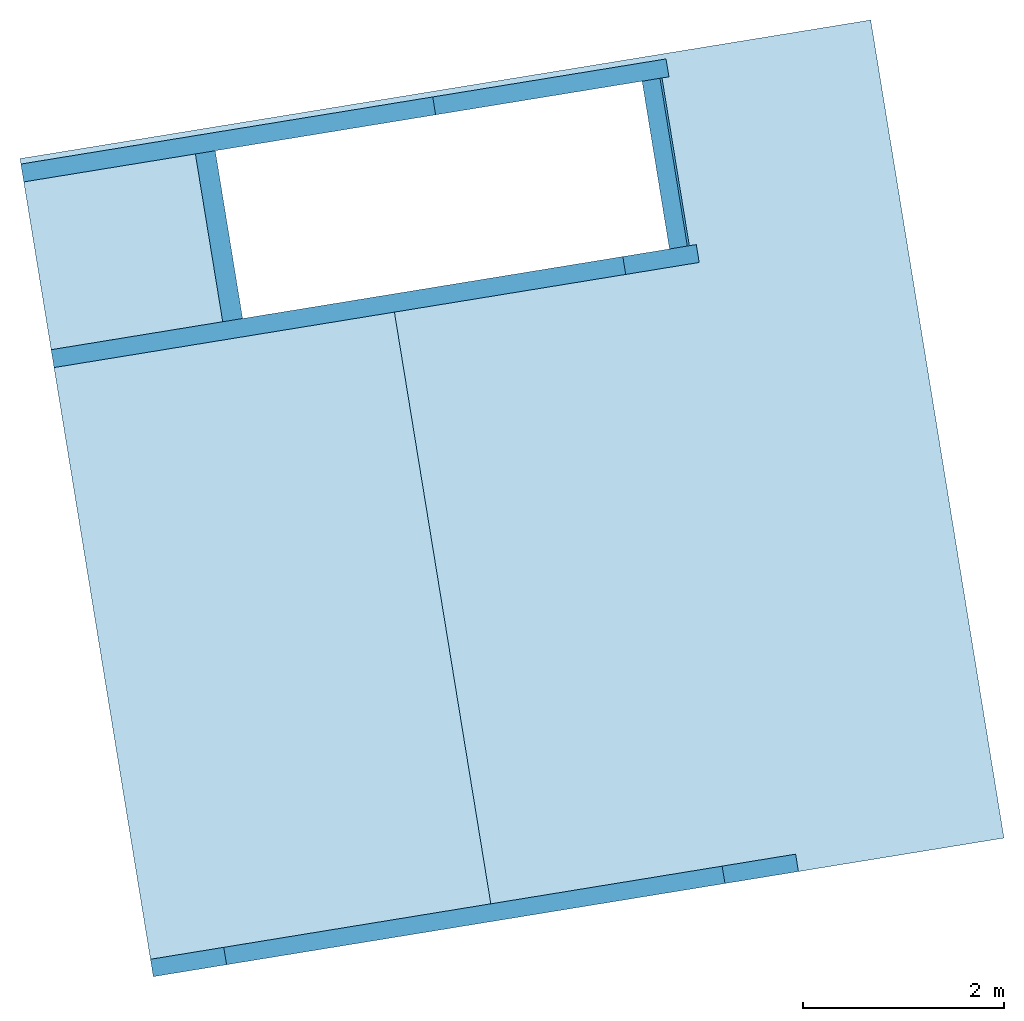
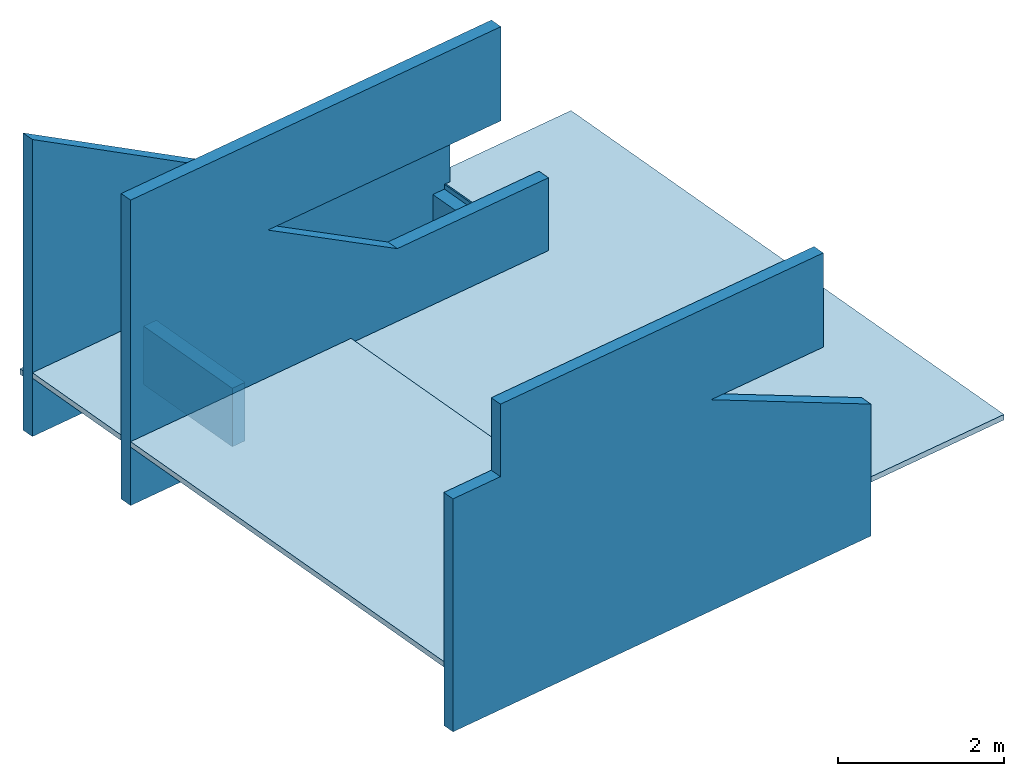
# One storey: 6 slabs, 2 walls.
"""IFC2X3 building model written with IfcOpenShell, lengths in millimetres."""

import ifcopenshell
import ifcopenshell.guid

model = None  # the IFC model being written
_history = None  # IfcOwnerHistory: only IFC2X3 demands one
_inside = {}  # id of a spatial element -> (the spatial element, [elements in it])
_under = {}  # id of a project, library or spatial element -> (it, [spatial elements below it])
_declared = {}  # id of a project -> (the project, [libraries it declares])
_typed = {}  # id of a type object -> (the type object, [elements of that type])
_made_of = {}  # id of a material, layer set ... -> (it, [elements and type objects made of it])


def new_model(schema):
    """Start an empty IFC model of exactly this schema.

    Asked for "IFC4X3", IfcOpenShell would pick the latest addendum, in which some entities
    have other attributes; the version numbers below select the first issue.
    IFC2X3 requires an IfcOwnerHistory on every rooted entity: one is made here for all.
    """
    global model, _history
    if schema == "IFC4X3":
        model = ifcopenshell.file(schema_version=(4, 3, 0, 0))
    else:
        model = ifcopenshell.file(schema=schema)
    _inside.clear()
    _under.clear()
    _declared.clear()
    _typed.clear()
    _made_of.clear()
    _history = None
    if model.schema == "IFC2X3":
        org = make("IfcOrganization", Name="unknown")
        user = make(
            "IfcPersonAndOrganization",
            ThePerson=make("IfcPerson", FamilyName="unknown"),
            TheOrganization=org,
        )
        app = make(
            "IfcApplication",
            ApplicationDeveloper=org,
            Version="unknown",
            ApplicationFullName="unknown",
            ApplicationIdentifier="unknown",
        )
        _history = make(
            "IfcOwnerHistory",
            OwningUser=user,
            OwningApplication=app,
            ChangeAction="ADDED",
            CreationDate=0,
        )
    return model


def make(cls, **values):
    """One entity of the class cls with the attributes given. An attribute that is None is left unset."""
    return model.create_entity(
        cls, **{name: value for name, value in values.items() if value is not None}
    )


def entity(cls, *values):
    """Any entity or typed value of the class cls, its attributes in the order of the schema. None: left unset."""
    e = model.create_entity(cls)
    for i, value in enumerate(values):
        if value is not None:
            e[i] = value
    return e


def rooted(cls, **values):
    """An entity with a GlobalId (a new one), such as an element, a storey or a relation."""
    return make(cls, GlobalId=ifcopenshell.guid.new(), OwnerHistory=_history, **values)


def si_unit(unit_type, name, prefix=None):
    """IfcSIUnit, for example si_unit("LENGTHUNIT", "METRE", prefix="MILLI")."""
    return make("IfcSIUnit", UnitType=unit_type, Prefix=prefix, Name=name)


def converted_unit(unit_type, name, factor, base, dimensions=None, offset=None):
    """IfcConversionBasedUnit, such as the inch: factor (a typed value) times the base unit."""
    return make(
        "IfcConversionBasedUnit"
        if offset is None
        else "IfcConversionBasedUnitWithOffset",
        ConversionOffset=offset,
        Dimensions=None
        if dimensions is None
        else entity("IfcDimensionalExponents", *dimensions),
        UnitType=unit_type,
        Name=name,
        ConversionFactor=make(
            "IfcMeasureWithUnit", ValueComponent=factor, UnitComponent=base
        ),
    )


def derived_unit(unit_type, elements):
    """IfcDerivedUnit: a product of units, each with its exponent."""
    return make(
        "IfcDerivedUnit",
        Elements=[
            make("IfcDerivedUnitElement", Unit=unit, Exponent=power)
            for unit, power in elements
        ],
        UnitType=unit_type,
    )


def assignment(units):
    """IfcUnitAssignment: the units of a project."""
    return None if units is None else make("IfcUnitAssignment", Units=units)


def point(xyz):
    """IfcCartesianPoint."""
    return None if xyz is None else make("IfcCartesianPoint", Coordinates=xyz)


def direction(xyz):
    """IfcDirection."""
    return None if xyz is None else make("IfcDirection", DirectionRatios=xyz)


def frame(location, z_axis=None, x_axis=None):
    """IfcAxis2Placement3D, a coordinate frame: its origin and axes. An axis left out is left unset."""
    return make(
        "IfcAxis2Placement3D",
        Location=point(location),
        Axis=direction(z_axis),
        RefDirection=direction(x_axis),
    )


def origin():
    """The frame at (0, 0, 0) with its axes left unset."""
    return frame((0.0, 0.0, 0.0))


def origin_with_axes():
    """The frame at (0, 0, 0) with the z axis (0, 0, 1) and the x axis (1, 0, 0) written out."""
    return frame((0.0, 0.0, 0.0), z_axis=(0.0, 0.0, 1.0), x_axis=(1.0, 0.0, 0.0))


def place(relative_to, where):
    """IfcLocalPlacement: puts the frame where relative to a parent placement (None: the world)."""
    return make(
        "IfcLocalPlacement", PlacementRelTo=relative_to, RelativePlacement=where
    )


def context(
    kind, dimensions, precision=None, world=None, true_north=None, identifier=None
):
    """IfcGeometricRepresentationContext, for example the 3D "Model" context."""
    return make(
        "IfcGeometricRepresentationContext",
        ContextIdentifier=identifier,
        ContextType=kind,
        CoordinateSpaceDimension=dimensions,
        Precision=precision,
        WorldCoordinateSystem=world,
        TrueNorth=true_north,
    )


def subcontext(parent, identifier, kind, view, scale=None):
    """IfcGeometricRepresentationSubContext, for example "Body" below "Model"."""
    return make(
        "IfcGeometricRepresentationSubContext",
        ContextIdentifier=identifier,
        ContextType=kind,
        ParentContext=parent,
        TargetScale=scale,
        TargetView=view,
    )


def project(units=None, contexts=None):
    """IfcProject with its units and contexts."""
    return rooted(
        "IfcProject",
        Name="project",
        RepresentationContexts=contexts,
        UnitsInContext=assignment(units),
    )


def spatial(cls, under=None, at=None, **own):
    """A site, building, storey or space (cls), placed at a placement, below another one or the project."""
    s = rooted(cls, ObjectPlacement=at, **own)
    if under is not None:
        _under.setdefault(under.id(), (under, []))[1].append(s)
    return s


def faces_of(points, faces, orient=None, outer=None):
    """IfcFace entities. A face is a list of loops; a loop is a list of indices into points, from 0.

    orient and outer hold one flag for each loop. By default every Orientation is true, the
    first loop of a face is its IfcFaceOuterBound and the others are IfcFaceBound.
    """
    made = []
    for i, loops in enumerate(faces):
        bounds = []
        for j, loop in enumerate(loops):
            is_outer = j == 0 if outer is None else outer[i][j]
            bounds.append(
                make(
                    "IfcFaceOuterBound" if is_outer else "IfcFaceBound",
                    Bound=make("IfcPolyLoop", Polygon=[points[k] for k in loop]),
                    Orientation=True if orient is None else orient[i][j],
                )
            )
        made.append(make("IfcFace", Bounds=bounds))
    return made


def faceted_brep(points, faces, orient=None, outer=None, voids=None):
    """IfcFacetedBrep: a solid bounded by flat faces; with voids (closed shells), ...WithVoids."""
    shared = [point(p) for p in points]
    hull = make("IfcClosedShell", CfsFaces=faces_of(shared, faces, orient, outer))
    if voids is None:
        return make("IfcFacetedBrep", Outer=hull)
    return make(
        "IfcFacetedBrepWithVoids",
        Outer=hull,
        Voids=[
            make(cls, CfsFaces=faces_of(shared, fs, o, b)) for cls, fs, o, b in voids
        ],
    )


def shape(context_of_items, identifier, shape_type, items):
    """IfcShapeRepresentation: the items that make up one representation, for example the "Body"."""
    return make(
        "IfcShapeRepresentation",
        ContextOfItems=context_of_items,
        RepresentationIdentifier=identifier,
        RepresentationType=shape_type,
        Items=items,
    )


def material(Name=None, Category=None):
    """IfcMaterial."""
    return make("IfcMaterial", Name=Name, Category=Category)


def made_of(thing, what):
    """Note that an element or type object is made of a material, layer set ...; save() writes the relation."""
    if what is not None:
        _made_of.setdefault(what.id(), (what, []))[1].append(thing)
    return thing


def type_object(cls, material=None, **own):
    """A type object (cls), such as IfcWallType, which elements share."""
    return made_of(rooted(cls, **own), material)


def element(
    cls,
    number,
    at=None,
    inside=None,
    cuts=None,
    type_object=None,
    material=None,
    context=None,
    identifier="Body",
    shape_type=None,
    held_by="IfcProductDefinitionShape",
    body=None,
    shapes=None,
    **own,
):
    """One element of the class cls, such as IfcWall. Its Tag is "e" and its number.

    at: its placement. inside: the storey or other place that contains it. cuts: it is an
    opening in that element (IfcRelVoidsElement). A single representation is given by context,
    identifier, shape_type and body (its items); several are given by shapes. held_by: the class
    of the entity that holds the representations. save() writes the other relations.
    """
    e = rooted(cls, Tag="e%d" % number, ObjectPlacement=at, **own)
    if body is not None:
        shapes = [shape(context, identifier, shape_type, body)]
    if shapes is not None:
        e.Representation = make(held_by, Representations=shapes)
    if inside is not None:
        _inside.setdefault(inside.id(), (inside, []))[1].append(e)
    if cuts is not None:
        rooted(
            "IfcRelVoidsElement", RelatingBuildingElement=cuts, RelatedOpeningElement=e
        )
    if type_object is not None:
        _typed.setdefault(type_object.id(), (type_object, []))[1].append(e)
    return made_of(e, material)


def aggregate(whole, parts):
    """IfcRelAggregates: a whole, such as a stair, and the parts it consists of."""
    return rooted("IfcRelAggregates", RelatingObject=whole, RelatedObjects=parts)


def save(model, path):
    """Write the relations noted so far, then the file.

    IfcRelAggregates (storeys below a building ...), IfcRelContainedInSpatialStructure (elements
    in a storey), IfcRelDefinesByType, IfcRelAssociatesMaterial and IfcRelDeclares: one each for
    every whole, place, type object, material and project.
    """
    for whole, parts in _under.values():
        aggregate(whole, parts)
    for where, things in _inside.values():
        rooted(
            "IfcRelContainedInSpatialStructure",
            RelatedElements=things,
            RelatingStructure=where,
        )
    for kind, things in _typed.values():
        rooted("IfcRelDefinesByType", RelatedObjects=things, RelatingType=kind)
    for what, things in _made_of.values():
        rooted("IfcRelAssociatesMaterial", RelatedObjects=things, RelatingMaterial=what)
    for by, libraries in _declared.values():
        rooted("IfcRelDeclares", RelatingContext=by, RelatedDefinitions=libraries)
    model.write(path)


model = new_model("IFC2X3")

# Units and contexts
plan_context = context("Plan", 3, precision=1e-05, world=origin_with_axes())
model_context = context("Model", 3, precision=0.01, world=origin(), true_north=direction((6.12323399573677e-17, 1.0)))
body_context = subcontext(model_context, "Body", "Model", "MODEL_VIEW")
ifc_project = project(units=[converted_unit("PLANEANGLEUNIT", "DEGREE", entity("IfcPositiveLengthMeasure", 0.0174532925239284), si_unit("PLANEANGLEUNIT", "RADIAN"), dimensions=[0, 0, 0, 0, 0, 0, 0]), si_unit("AREAUNIT", "SQUARE_METRE"), si_unit("LENGTHUNIT", "METRE", prefix="MILLI"), si_unit("MASSUNIT", "GRAM", prefix="KILO"), si_unit("POWERUNIT", "WATT"), si_unit("PRESSUREUNIT", "PASCAL", prefix="KILO"), si_unit("FORCEUNIT", "NEWTON", prefix="KILO"), si_unit("ELECTRICVOLTAGEUNIT", "VOLT"), si_unit("ELECTRICCURRENTUNIT", "AMPERE"), si_unit("THERMODYNAMICTEMPERATUREUNIT", "DEGREE_CELSIUS"), si_unit("TIMEUNIT", "SECOND"), si_unit("VOLUMEUNIT", "CUBIC_METRE"), derived_unit("LINEARVELOCITYUNIT", [(si_unit("LENGTHUNIT", "METRE"), 1), (si_unit("TIMEUNIT", "SECOND"), -1)]), derived_unit("VOLUMETRICFLOWRATEUNIT", [(si_unit("VOLUMEUNIT", "CUBIC_METRE"), 1), (si_unit("TIMEUNIT", "SECOND"), -1)]), derived_unit("THERMALTRANSMITTANCEUNIT", [(si_unit("POWERUNIT", "WATT"), 1), (si_unit("THERMODYNAMICTEMPERATUREUNIT", "KELVIN"), -1), (si_unit("AREAUNIT", "SQUARE_METRE"), -1)]), derived_unit("SOUNDPRESSUREUNIT", [(si_unit("PRESSUREUNIT", "PASCAL"), 1)])], contexts=[model_context, plan_context])

# Site, building, storey
site_placement = place(None, frame((5.09380697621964e-08, 5.80416781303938e-08, 0.0), z_axis=(0.0, 0.0, 1.0), x_axis=(-0.160806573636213, 0.986985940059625, 0.0)))
site = spatial("IfcSite", under=ifc_project, at=site_placement, Name="Default", CompositionType="ELEMENT")
building_placement = place(site_placement, frame((0.0, 0.0, 0.0), z_axis=(0.0, 0.0, 1.0), x_axis=(1.0, -2.77555756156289e-17, 0.0)))
building = spatial("IfcBuilding", under=site, at=building_placement, CompositionType="ELEMENT")
storey_placement = place(building_placement, frame((0.0, 0.0, 47800.0), z_axis=(0.0, 0.0, 1.0), x_axis=(1.0, -2.77555756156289e-17, 0.0)))
storey = spatial("IfcBuildingStorey", under=building, at=storey_placement, Name="U01-Nivå B+3,1m", CompositionType="ELEMENT", Elevation=47800.0)

# Slabs
slab_type_1 = type_object("IfcSlabType", Name="180*6550", PredefinedType="FLOOR")
slab_1_placement = place(storey_placement, frame((0.0, 0.0, 0.0), z_axis=(0.0, 0.0, 1.0), x_axis=(1.0, -2.77555756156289e-17, 0.0)))
element("IfcSlab", 1, at=slab_1_placement, inside=storey, type_object=slab_type_1, Name="PLASSTØPTVEGG", ObjectType="180*6550", PredefinedType="FLOOR", context=body_context, shape_type="Brep", body=[
    faceted_brep([(980308.477619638, -372700.382838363, 2560.00000007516), (980128.477619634, -372700.38376501, 2560.00000007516), (980128.477619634, -372700.383765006, 4500.00000000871), (980308.477619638, -372700.38283836, 4500.00000000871), (980128.444166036, -366202.062917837, 6928.28537395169), (980308.444166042, -366202.062526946, 6928.28506033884), (980308.46552175, -370350.382838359, 4500.00000000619), (980128.465521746, -370350.383765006, 4500.00000000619), (980128.477619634, -366202.062917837, 2560.00000007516), (980308.477619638, -366202.062917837, 2560.00000007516), (980308.444166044, -366202.062917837, 2560.00000007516), (980308.444166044, -366202.062917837, 6928.28483152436), (980128.444166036, -366202.062917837, 2560.00000007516)], [[[0, 1, 2, 3]], [[4, 5, 6, 7]], [[7, 6, 3, 2]], [[1, 8, 4, 7, 2]], [[5, 9, 0, 3, 6]], [[10, 11, 4, 12]], [[12, 1, 0, 10]]], orient=[[False], [False], [False], [False], [False], [False], [False]]),
])
slab_type_2 = type_object("IfcSlabType", Name="180*8650", PredefinedType="FLOOR")
slab_2_placement = place(storey_placement, frame((0.0, 0.0, 0.0), z_axis=(0.0, 0.0, 1.0), x_axis=(1.0, -2.77555756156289e-17, 0.0)))
element("IfcSlab", 2, at=slab_2_placement, inside=storey, type_object=slab_type_2, Name="PLASSTØPTVEGG", ObjectType="180*8650", PredefinedType="FLOOR", context=body_context, shape_type="Brep", body=[
    faceted_brep([(972298.477619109, -372700.418235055, 2560.00000007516), (972123.367643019, -372700.419161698, 2560.00000007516), (972123.36764302, -372700.419136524, 4500.00000000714), (972298.477619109, -372700.418235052, 4500.00000000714), (972123.367643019, -366940.419136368, 5985.00000000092), (972123.367643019, -366202.062917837, 5984.99999999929), (972298.444165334, -366202.062917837, 5985.00000000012), (972298.447966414, -366940.418235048, 5985.00000000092), (972123.367643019, -366940.419136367, 7050.00000000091), (972298.447966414, -366940.418235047, 7050.00000000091), (972123.367643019, -371960.419136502, 7050.00000000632), (972298.473809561, -371960.418235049, 7050.00000000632), (972123.367643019, -371960.419136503, 5665.00000000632), (972298.473809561, -371960.41823505, 5665.00000000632), (972123.367643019, -370215.419136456, 5665.00000000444), (972298.464826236, -370215.418235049, 5665.00000000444), (972298.477619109, -366202.062917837, 2560.00000007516), (972298.444165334, -366202.062917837, 2560.00000007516), (972123.367643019, -366202.062917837, 2560.00000007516), (972123.367643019, -372700.419136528, 2560.00000007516)], [[[0, 1, 2, 3]], [[4, 5, 6, 7]], [[8, 4, 7, 9]], [[10, 8, 9, 11]], [[12, 10, 11, 13]], [[14, 12, 13, 15]], [[2, 14, 15, 3]], [[6, 16, 0, 3, 15, 13, 11, 9, 7]], [[17, 6, 5, 18]], [[5, 4, 8, 10, 12, 14, 2, 19, 18]], [[19, 0, 17, 18]]], orient=[[False], [False], [False], [False], [False], [False], [False], [False], [False], [False], [False]]),
])
slab_3_placement = place(storey_placement, frame((0.0, 0.0, 0.0), z_axis=(0.0, 0.0, 1.0), x_axis=(1.0, -2.77555756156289e-17, 0.0)))
element("IfcSlab", 3, at=slab_3_placement, inside=storey, type_object=slab_type_2, Name="PLASSTØPTVEGG", ObjectType="180*8650", PredefinedType="FLOOR", context=body_context, shape_type="Brep", body=[
    faceted_brep([(978438.477619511, -372700.391102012, 2560.00000007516), (978258.477619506, -372700.392028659, 2560.00000007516), (978258.477619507, -372700.392028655, 4500.00000000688), (978438.477619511, -372700.391102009, 4500.00000000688), (978258.444165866, -366202.062917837, 7049.99999999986), (978438.444165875, -366202.062876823, 7049.99999999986), (978438.473809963, -371960.391102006, 7050.00000000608), (978258.473809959, -371960.392028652, 7050.00000000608), (978438.473809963, -371960.391102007, 5665.00000000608), (978258.473809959, -371960.392028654, 5665.00000000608), (978438.455148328, -368335.391102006, 5665.00000000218), (978258.455148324, -368335.392028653, 5665.00000000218), (978438.465521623, -370350.391102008, 4500.00000000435), (978258.465521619, -370350.392028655, 4500.00000000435), (978258.477619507, -366202.062917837, 2560.00000007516), (978438.477619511, -366202.062917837, 2560.00000007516), (978438.444165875, -366202.062917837, 2560.00000007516), (978438.444165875, -366202.062917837, 7049.99999999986), (978258.444165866, -366202.062917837, 2560.00000007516)], [[[0, 1, 2, 3]], [[4, 5, 6, 7]], [[7, 6, 8, 9]], [[9, 8, 10, 11]], [[11, 10, 12, 13]], [[13, 12, 3, 2]], [[1, 14, 4, 7, 9, 11, 13, 2]], [[5, 15, 0, 3, 12, 10, 8, 6]], [[16, 17, 4, 18]], [[18, 1, 0, 16]]], orient=[[False], [False], [False], [False], [False], [False], [False], [False], [False], [False]]),
])
slab_type_3 = type_object("IfcSlabType", Name="80*1690", PredefinedType="FLOOR")
slab_4_placement = place(storey_placement, frame((0.0, 0.0, 0.0), z_axis=(0.0, 0.0, 1.0), x_axis=(1.0, -2.77555756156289e-17, 0.0)))
element("IfcSlab", 4, at=slab_4_placement, inside=storey, type_object=slab_type_3, Name="GULVPÅGRUNN", ObjectType="80*1690", PredefinedType="FLOOR", context=body_context, shape_type="Brep", body=[
    faceted_brep([(980128.449683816, -366202.062909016, 3500.00033079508), (980128.449683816, -366202.062917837, 3420.00033079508), (980128.459610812, -368130.382479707, 3420.00092600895), (980128.459610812, -368130.382455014, 3500.00092600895), (978438.44968373, -366202.062917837, 3420.00033079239), (978438.44968373, -366202.062909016, 3500.0003307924), (978438.459610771, -368130.39115514, 3500.00092600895), (978438.459610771, -368130.391179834, 3420.00092600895), (978438.44968373, -366202.062917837, 3500.0003307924), (980128.449683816, -366202.062917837, 3500.00033079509)], [[[0, 1, 2, 3]], [[4, 5, 6, 7]], [[7, 6, 3, 2]], [[1, 4, 7, 2]], [[5, 0, 3, 6]], [[8, 4, 1, 9]]], orient=[[False], [False], [False], [False], [False], [False]]),
])
slab_type_4 = type_object("IfcSlabType", Name="80*12000", PredefinedType="FLOOR")
slab_5_placement = place(storey_placement, frame((968638.319247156, -385580.432667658, 3350.0), z_axis=(0.0, 0.0, 1.0), x_axis=(1.0, -2.77555756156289e-17, 0.0)))
element("IfcSlab", 5, at=slab_5_placement, inside=storey, type_object=slab_type_4, Name="GULVPÅGRUNN", ObjectType="80*12000", PredefinedType="FLOOR", context=body_context, shape_type="Brep", body=[
    faceted_brep([(3485.04839586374, 12880.0148964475, 80.0036779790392), (3485.04839586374, 12880.0148717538, 0.00367797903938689), (3660.15632598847, 12880.0156190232, 0.00367768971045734), (3660.15632612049, 12880.0156437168, 80.0036776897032), (3660.14322472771, 15950.0156190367, 0.00273007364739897), (3660.14322485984, 15950.0156437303, 80.0027300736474), (9620.1434690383, 15950.0410532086, 0.00272022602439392), (9620.1434691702, 15950.0410779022, 80.0027202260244), (9620.15657029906, 12880.0410531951, 0.00366784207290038), (9620.15657043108, 12880.0410778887, 80.0036678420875), (9800.15657030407, 12880.0418213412, 0.00366754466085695), (9800.15657043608, 12880.0418460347, 80.0036675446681), (9800.15627157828, 12950.0418213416, 0.00364593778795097), (9800.15627171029, 12950.0418460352, 80.003645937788), (11490.1562716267, 12950.0490333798, 0.00364314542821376), (11490.1562717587, 12950.0490580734, 80.0036431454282), (11490.1565703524, 12880.0490333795, 0.00366475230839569), (11490.1565704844, 12880.0490580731, 80.0036647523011), (11588.6711852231, 19378.3697498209, 0.00165875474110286), (11588.6711851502, 19378.3697609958, 80.001658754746), (3485.04839586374, 10809.3697498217, 0.00730908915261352), (11725.0483958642, 10809.3697498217, 0.0073090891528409), (11725.0483958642, 19378.3697498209, 0.00730908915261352), (11725.0483958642, 19378.3697498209, 80.0073100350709), (11725.0483958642, 10809.3697498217, 80.007310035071), (3485.04839586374, 10809.3697498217, 80.0073100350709), (11725.0483958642, 10809.3697498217, 80.0076400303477), (11725.0483958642, 19378.3697498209, 80.0076400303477), (11725.0483958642, 19378.3697498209, 4.54466544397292e-07), (11725.0483958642, 10809.3697498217, 4.54466658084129e-07), (11588.6711849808, 19378.3697498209, 80.0016587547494), (3485.04839586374, 10809.3697498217, 0.00367797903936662), (3485.04839586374, 10809.3697498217, 80.0036779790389)], [[[0, 1, 2, 3]], [[4, 5, 3, 2]], [[6, 7, 5, 4]], [[8, 9, 7, 6]], [[10, 11, 9, 8]], [[12, 13, 11, 10]], [[14, 15, 13, 12]], [[16, 17, 15, 14]], [[18, 19, 17, 16]], [[1, 20, 21, 22, 18, 16, 14, 12, 10, 8, 6, 4, 2]], [[19, 23, 24, 25, 0, 3, 5, 7, 9, 11, 13, 15, 17]], [[26, 27, 28, 29]], [[27, 30, 18, 28]], [[31, 1, 0, 32]], [[32, 26, 29, 31]]], orient=[[False], [False], [False], [False], [False], [False], [False], [False], [False], [False], [False], [False], [False], [False], [False]]),
])
slab_type_5 = type_object("IfcSlabType", Name="80*4500", PredefinedType="FLOOR")
slab_6_placement = place(storey_placement, frame((0.0, 0.0, 0.0), z_axis=(0.0, 0.0, 1.0), x_axis=(1.0, -2.77555756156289e-17, 0.0)))
element("IfcSlab", 6, at=slab_6_placement, inside=storey, type_object=slab_type_5, Name="GULVPÅGRUNN", ObjectType="80*4500", PredefinedType="FLOOR", context=body_context, shape_type="Brep", body=[
    faceted_brep([(972298.45362018, -366202.062917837, 3420.00000492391), (972298.45362018, -366202.062917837, 3500.00000492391), (972298.45362018, -369630.405133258, 3500.00000492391), (972298.45362018, -369630.405133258, 3420.00000492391), (978258.454108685, -369630.405133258, 3500.00000492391), (978258.454108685, -369630.405133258, 3420.00000492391), (978258.454108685, -366202.062917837, 3500.00000492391), (978258.454108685, -366202.062917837, 3420.00000492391)], [[[0, 1, 2, 3]], [[3, 2, 4, 5]], [[6, 7, 5, 4]], [[7, 0, 3, 5]], [[1, 6, 4, 2]], [[7, 6, 1, 0]]], orient=[[False], [False], [False], [False], [False], [False]]),
])

# Walls
ifc_material = material(Name="CONCRETE/B35")
wall_type_1 = type_object("IfcWallType", Name="1280*200", PredefinedType="NOTDEFINED", material=ifc_material)
wall_1_placement = place(storey_placement, frame((978438.476605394, -372630.391168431, 2150.0), z_axis=(0.0, 0.0, 1.0), x_axis=(1.0, -2.77555756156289e-17, 0.0)))
element("IfcWall", 7, at=wall_1_placement, inside=storey, type_object=wall_type_1, Name="PLASSTØPTVEGG", ObjectType="1280*200", context=body_context, shape_type="Brep", body=[
    faceted_brep([(1690.00061654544, 20.0074159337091, 1210.0), (0.000795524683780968, 19.9999469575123, 1210.0), (0.0, 200.0, 1210.0), (1689.99982102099, 200.007469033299, 1210.0), (1690.00061654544, 20.0074159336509, 1280.0), (0.000795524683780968, 19.9999469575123, 1280.0), (1690.000704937, 0.00746903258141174, 410.000000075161), (0.000883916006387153, 0.0, 410.000000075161), (0.000883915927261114, 0.0, 1280.0), (1690.00070493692, 0.00746903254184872, 1280.0), (0.0, 200.0, 410.000000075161), (1689.99982102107, 200.007469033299, 410.000000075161)], [[[0, 1, 2, 3]], [[0, 4, 5, 1]], [[6, 7, 8, 9]], [[7, 10, 2, 1, 5, 8]], [[10, 11, 3, 2]], [[11, 6, 9, 4, 0, 3]], [[4, 9, 8, 5]], [[11, 10, 7, 6]]], orient=[[False], [False], [False], [False], [False], [False], [False], [False]]),
])
wall_type_2 = type_object("IfcWallType", Name="1270*200", PredefinedType="NOTDEFINED", material=ifc_material)
wall_2_placement = place(storey_placement, frame((978438.456719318, -368130.391168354, 2150.0), z_axis=(0.0, 0.0, 1.0), x_axis=(1.0, -2.77555756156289e-17, 0.0)))
element("IfcWall", 8, at=wall_2_placement, inside=storey, type_object=wall_type_2, Name="PLASSTØPTVEGG", ObjectType="1270*200", context=body_context, shape_type="Brep", body=[
    faceted_brep([(-1.13686837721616e-13, 199.999999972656, 410.000000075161), (1689.99982102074, 200.007469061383, 410.000000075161), (1689.99982102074, 200.007469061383, 1270.00000000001), (-1.13686837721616e-13, 199.999999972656, 1270.00000000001), (0.000883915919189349, -2.80604552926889e-08, 410.000000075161), (0.000883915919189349, -2.80604552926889e-08, 1270.00000000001), (1690.00070493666, 0.00746906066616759, 410.000000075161), (1690.00070493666, 0.00746906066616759, 1270.00000000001)], [[[0, 1, 2, 3]], [[4, 0, 3, 5]], [[6, 4, 5, 7]], [[1, 6, 7, 2]], [[3, 2, 7, 5]], [[4, 6, 1, 0]]], orient=[[False], [False], [False], [False], [False], [False]]),
])

save(model, "model.ifc")
